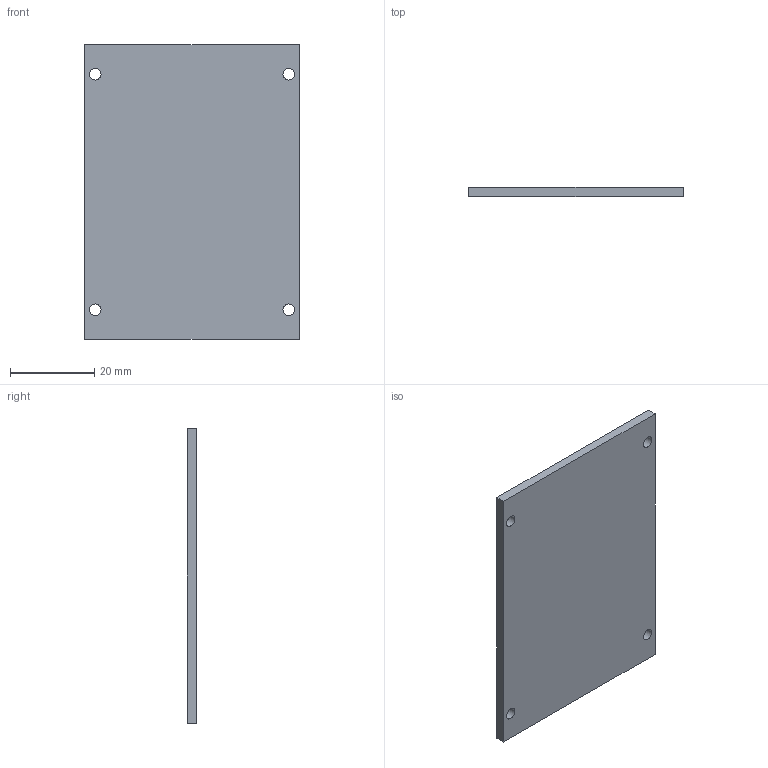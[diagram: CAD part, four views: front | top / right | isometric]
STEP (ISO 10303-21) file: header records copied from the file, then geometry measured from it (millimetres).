
FILE_DESCRIPTION(('FreeCAD Model'),'2;1');
FILE_NAME('Open CASCADE Shape Model','2026-09-19T17:54:12',('FreeCAD'),( 'FreeCAD'),'Open CASCADE STEP processor 7.8','FreeCAD','Unknown');
FILE_SCHEMA(('AUTOMOTIVE_DESIGN { 1 0 10303 214 1 1 1 1 }'));
Length unit declared in the file: millimetre
Products named in the file (1): Open CASCADE STEP translator 7.8 4
Bounding box: 51 x 2.2 x 70 mm (x, y, z)
Volume: 7799.8 mm3; surface area: 7700.5 mm2
Topology: 1 solids, 1 shells, 10 faces, 24 edges, 16 vertices
Faces by surface type: plane 6, cylinder 4
Full cylindrical faces by diameter (mm): 2.8 x4
Entity records: 322 total; most frequent: DIRECTION 54, CARTESIAN_POINT 51, ORIENTED_EDGE 48, EDGE_CURVE 24, AXIS2_PLACEMENT_3D 19, FACE_BOUND 18, EDGE_LOOP 18, VERTEX_POINT 16
